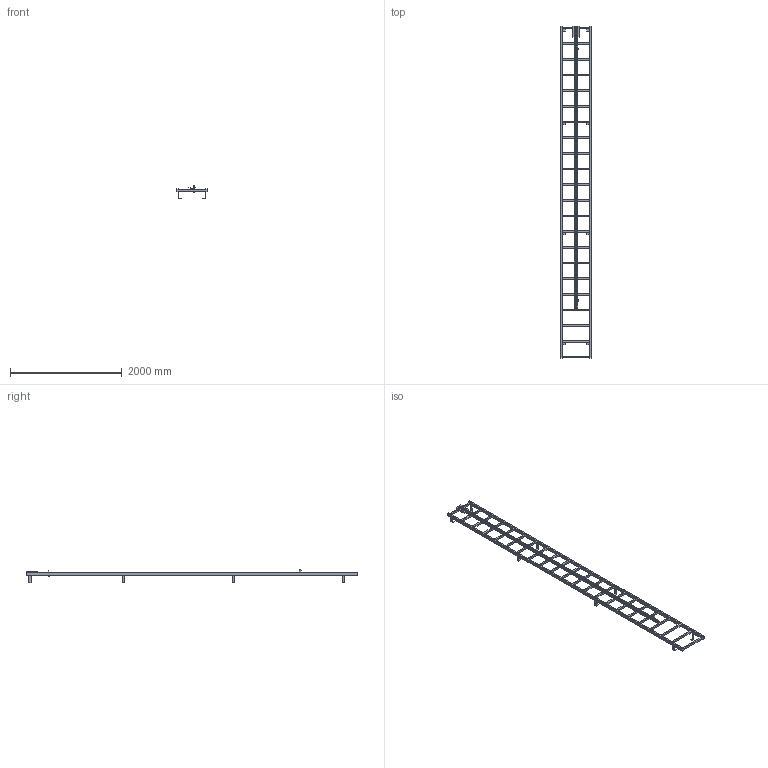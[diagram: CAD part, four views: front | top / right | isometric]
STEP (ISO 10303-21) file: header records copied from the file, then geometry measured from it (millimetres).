
FILE_DESCRIPTION((''),'2;1');
FILE_NAME('52330234','2024-12-05T09:36:46',('wep'),('HUBER SE'),'CREO PARAMETRIC BY PTC INC, 2022162','CREO PARAMETRIC BY PTC INC, 2022162','');
FILE_SCHEMA(('AUTOMOTIVE_DESIGN { 1 0 10303 214 1 1 1 1 }'));
Length unit declared in the file: millimetre
Products named in the file (1): 52330234
Bounding box: 550 x 5930 x 239 mm (x, y, z)
Volume: 27633454.5 mm3; surface area: 4710363.3 mm2
Topology: 2 solids, 2 shells, 356 faces, 1044 edges, 686 vertices
Faces by surface type: plane 356
Entity records: 12331 total; most frequent: CARTESIAN_POINT 2088, ORIENTED_EDGE 2088, DIRECTION 1756, VECTOR 1044, LINE 1044, EDGE_CURVE 1044, VERTEX_POINT 686, EDGE_LOOP 468
